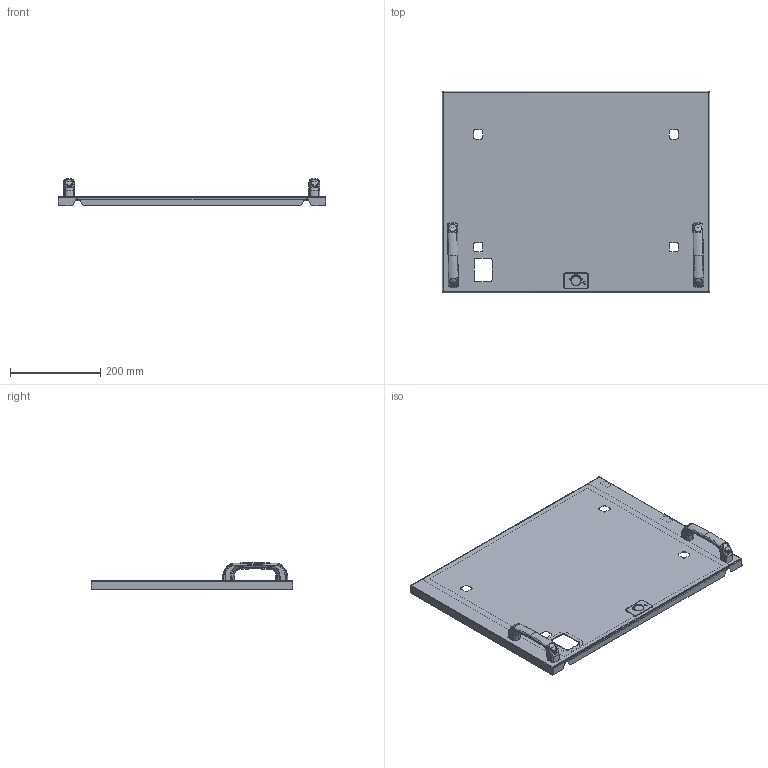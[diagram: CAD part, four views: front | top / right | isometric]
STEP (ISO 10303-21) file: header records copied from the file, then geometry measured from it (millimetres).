
FILE_DESCRIPTION(('CAx-IF Rec.Pracs.---Model Styling and Organization---1.2---2011-12-15','CAx-IF Rec.Pracs.---Geometric and Assembly Validation Properties---4.1---2014-06-16','CAx-IF Rec.Pracs.---PMI Polyline Presentation---2.0---2013-05-24'),'2;1');
FILE_NAME('R5M2W9M1BF-L.stp','2021-05-05T12:36:12+03:00',(''),(''),'STEP Interface 4.4 by CT CoreTechnologie','3D_Evolution4.4 by CT CoreTechnologie','');
FILE_SCHEMA(('AUTOMOTIVE_DESIGN { 1 0 10303 214 1 1 1 1 }'));
Length unit declared in the file: millimetre
Products named in the file (14): R5M2W9M1BF-L; AC00C148_AC00C148; 4.444.002; PR.DT477.120.02-poprawa; PR.DT477.120.01; Ì5-GOST 5915-70 (DIN 934)_straight; RB.1942.00.00.0_-04; RB.1166.00.05.0; PF 3.5x7 RAMmcc 2.0_00; PF 7x14 RAMmcc 2.0_91; Ì6õ12-A5100231_straight; RB.1166.00.04.0_-00; RB.1942.00.01.0_-04; RB.1166.00.02.0_¢ à 1
Assembly tree (18 placements, depth 3):
  R5M2W9M1BF-L
    AC00C148_AC00C148  x2
    4.444.002  x2
      PR.DT477.120.02-poprawa
      PR.DT477.120.01
    Ì5-GOST 5915-70 (DIN 934)_straight
    RB.1942.00.00.0_-04
      RB.1166.00.05.0  x3
      PF 3.5x7 RAMmcc 2.0_00
      PF 7x14 RAMmcc 2.0_91
      Ì6õ12-A5100231_straight
      RB.1166.00.04.0_-00
      RB.1942.00.01.0_-04
      RB.1166.00.02.0_¢ à 1
Bounding box: 594 x 447 x 60 mm (x, y, z)
Surface area: 725398.5 mm2 (no closed solid volume)
Topology: 0 solids, 21 shells, 1692 faces, 4265 edges, 2608 vertices
Faces by surface type: bspline 832, plane 553, cylinder 307
Entity records: 35651 total; most frequent: CARTESIAN_POINT 15285, ORIENTED_EDGE 4320, DIRECTION 3946, EDGE_CURVE 2160, AXIS2_PLACEMENT_3D 1477, VERTEX_POINT 1338, CIRCLE 1002, VECTOR 992
